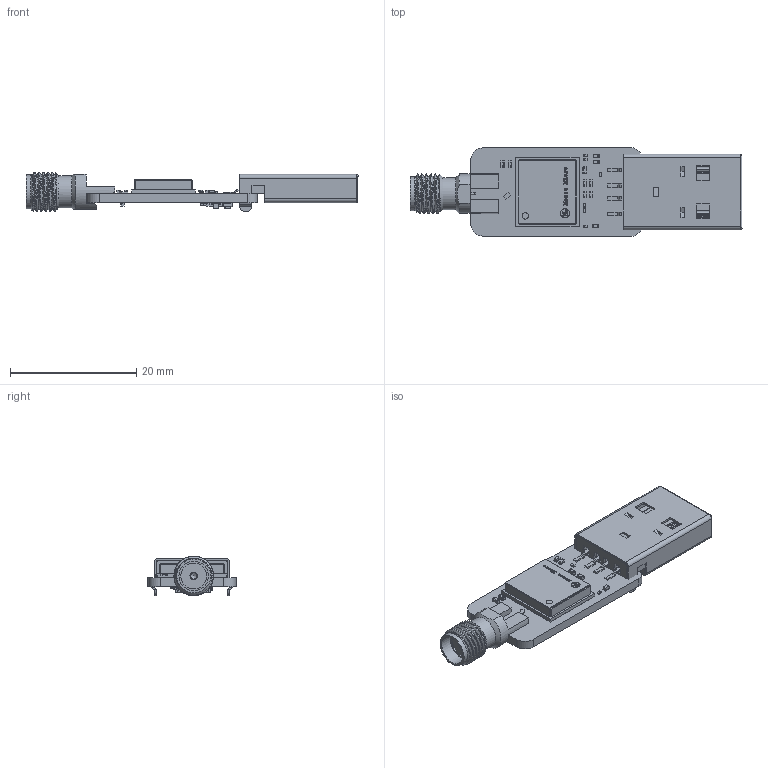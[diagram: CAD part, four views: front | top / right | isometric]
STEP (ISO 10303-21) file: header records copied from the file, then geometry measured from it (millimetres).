
FILE_DESCRIPTION(('Open CASCADE Model'),'2;1');
FILE_NAME('Open CASCADE Shape Model','2026-03-11T16:37:36',('Author'),( 'Open CASCADE'),'Open CASCADE STEP processor 7.5','Open CASCADE 7.5' ,'Unknown');
FILE_SCHEMA(('AUTOMOTIVE_DESIGN { 1 0 10303 214 1 1 1 1 }'));
Length unit declared in the file: millimetre
Products named in the file (239): PCB; Board; Open CASCADE STEP translator 7.5 11.1.1; D7; 8759869808; Extruded; C11; 8580084480; Terminal; Open CASCADE STEP translator 6.8 3.1.1; Open CASCADE STEP translator 6.8 3.1.2; Mid_Body; Open CASCADE STEP translator 6.8 3.2.1; C10; C9; 8580084864; U2; 8740130288; R3; 8580086400; Open CASCADE STEP translator 6.8 7.2.1; Mark; R2; 8580086784; R1; 8738458016; L1; 8740128848; Open CASCADE STEP translator 6.8 2.1.1; Open CASCADE STEP translator 6.8 2.1.2; Open CASCADE STEP translator 6.8 2.2.1; C8; 8580085056; Open CASCADE STEP translator 6.8 23.1.1; Open CASCADE STEP translator 6.8 23.1.2; Open CASCADE STEP translator 6.8 23.2.1; C5; C3; 8580084672; C1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
Assembly tree (259 placements, depth 8):
  PCB
    Board
      Open CASCADE STEP translator 7.5 11.1.1
    D7
      8759869808
        Extruded
    C11
      8580084480
        Terminal
          Open CASCADE STEP translator 6.8 3.1.1
          Open CASCADE STEP translator 6.8 3.1.2
        Mid_Body
          Open CASCADE STEP translator 6.8 3.2.1
    C10
      8580084480
        Terminal
          Open CASCADE STEP translator 6.8 3.1.1
          Open CASCADE STEP translator 6.8 3.1.2
        Mid_Body
          Open CASCADE STEP translator 6.8 3.2.1
    C9
      8580084864
        Terminal
          Open CASCADE STEP translator 6.8 3.1.1
          Open CASCADE STEP translator 6.8 3.1.2
        Mid_Body
          Open CASCADE STEP translator 6.8 3.2.1
    U2
      8740130288
    R3
      8580086400
        Mid_Body
        Terminal  x2
          Open CASCADE STEP translator 6.8 7.2.1
        Mark
    R2
      8580086784
        Mid_Body
        Terminal  x2
          Open CASCADE STEP translator 6.8 7.2.1
        Mark
    R1
      8738458016
        Mid_Body
        Terminal  x2
          Open CASCADE STEP translator 6.8 7.2.1
        Mark
    L1
      8740128848
        Terminal
          Open CASCADE STEP translator 6.8 2.1.1
          Open CASCADE STEP translator 6.8 2.1.2
        Mid_Body
          Open CASCADE STEP translator 6.8 2.2.1
    C8
      8580085056
        Terminal
          Open CASCADE STEP translator 6.8 23.1.1
          Open CASCADE STEP translator 6.8 23.1.2
        Mid_Body
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Bounding box: 52.61 x 14 x 6.28 mm (x, y, z)
Volume: 1573.7 mm3; surface area: 3523.5 mm2
Topology: 158 solids, 158 shells, 3335 faces, 8803 edges, 5682 vertices
Faces by surface type: plane 2818, cylinder 398, sphere 97, cone 11, bspline 11
Full cylindrical faces by diameter (mm): 0.033 x3, 0.381 x1, 0.7 x4, 0.991 x1, 1 x3, 1.118 x1, 4.089 x1, 4.674 x1, 5.08 x1, 5.385 x1
Entity records: 97639 total; most frequent: CARTESIAN_POINT 17477, ORIENTED_EDGE 15262, DIRECTION 14265, EDGE_CURVE 7631, LINE 7027, VECTOR 7027, VERTEX_POINT 5022, AXIS2_PLACEMENT_3D 3619
